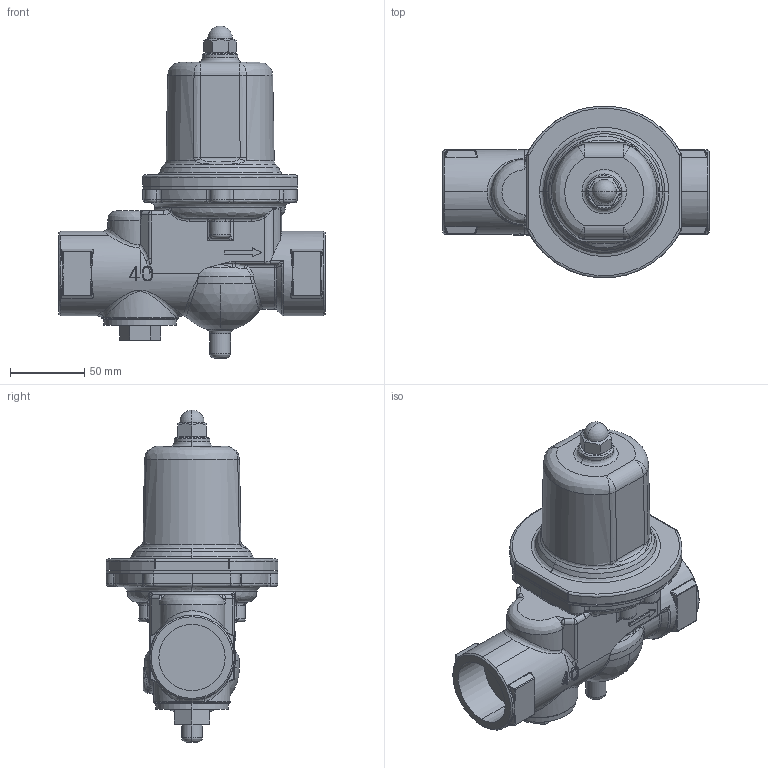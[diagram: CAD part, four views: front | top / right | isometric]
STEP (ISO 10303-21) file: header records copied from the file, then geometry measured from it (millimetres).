
FILE_DESCRIPTION( (''), '2;1');
FILE_NAME ('PC1027.11244.GD-26-NE　40A_29130.stp','2025-07-25T14:59:12',(''),(''),'spGate 19.8.4 (****-****-****-****)','','');
FILE_SCHEMA (('AUTOMOTIVE_DESIGN'));
Length unit declared in the file: millimetre
Products named in the file (6): Assembly; GD-26-NE 弁箱 40A; GD-26-NE ダイヤフラム 32-40A; GD-26-NE 保護筒 32-40A; GD-26-NE 六角袋ナット 32-50A; GD-26-NE ストレーナキャップ 32-50A
Assembly tree (5 placements, depth 2):
  Assembly
    GD-26-NE 弁箱 40A
    GD-26-NE ダイヤフラム 32-40A
    GD-26-NE 保護筒 32-40A
    GD-26-NE 六角袋ナット 32-50A
    GD-26-NE ストレーナキャップ 32-50A
Bounding box: 180 x 115.97 x 224 mm (x, y, z)
Volume: 1082885.3 mm3; surface area: 135831.9 mm2
Topology: 5 solids, 5 shells, 598 faces, 1448 edges, 809 vertices
Faces by surface type: bspline 263, cylinder 177, plane 115, sphere 43
Entity records: 38395 total; most frequent: CARTESIAN_POINT 15474, ORIENTED_EDGE 2754, DIRECTION 2002, COLOUR_RGB 1980, PRESENTATION_STYLE_ASSIGNMENT 1980, STYLED_ITEM 1980, EDGE_CURVE 1377, DRAUGHTING_PRE_DEFINED_CURVE_FONT 1377
